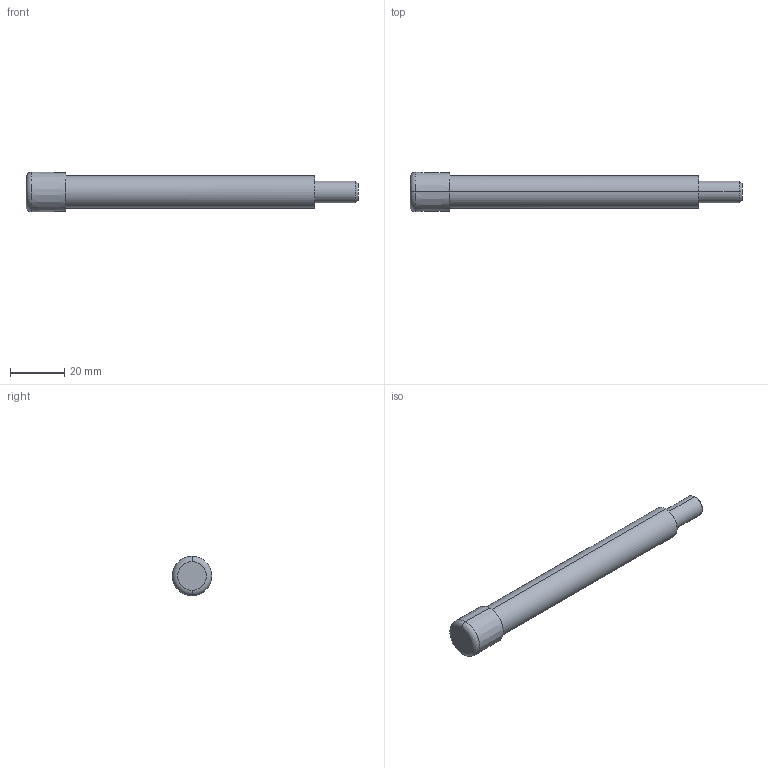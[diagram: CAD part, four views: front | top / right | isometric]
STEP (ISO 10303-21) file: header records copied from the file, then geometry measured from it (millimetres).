
FILE_DESCRIPTION (( 'STEP AP214' ), '1' );
FILE_NAME ('FABER - AF703CC.STEP', '2017-04-05T12:13:17', ( '' ), ( '' ), 'SwSTEP 2.0', 'SolidWorks 2016', '' );
FILE_SCHEMA (( 'AUTOMOTIVE_DESIGN' ));
Length unit declared in the file: millimetre
Products named in the file (3): FABER - AF703CC; AF_703; EMBOUT-CC-D12
Assembly tree (2 placements, depth 2):
  FABER - AF703CC
    AF_703
    EMBOUT-CC-D12
Bounding box: 122.3 x 14.56 x 14.56 mm (x, y, z)
Volume: 13272.1 mm3; surface area: 6061.9 mm2
Topology: 2 solids, 2 shells, 22 faces, 42 edges, 26 vertices
Faces by surface type: cylinder 8, cone 6, plane 6, torus 2
Entity records: 911 total; most frequent: CARTESIAN_POINT 217, DIRECTION 116, ORIENTED_EDGE 84, AXIS2_PLACEMENT_3D 51, EDGE_CURVE 42, EDGE_LOOP 26, VERTEX_POINT 26, CIRCLE 24
